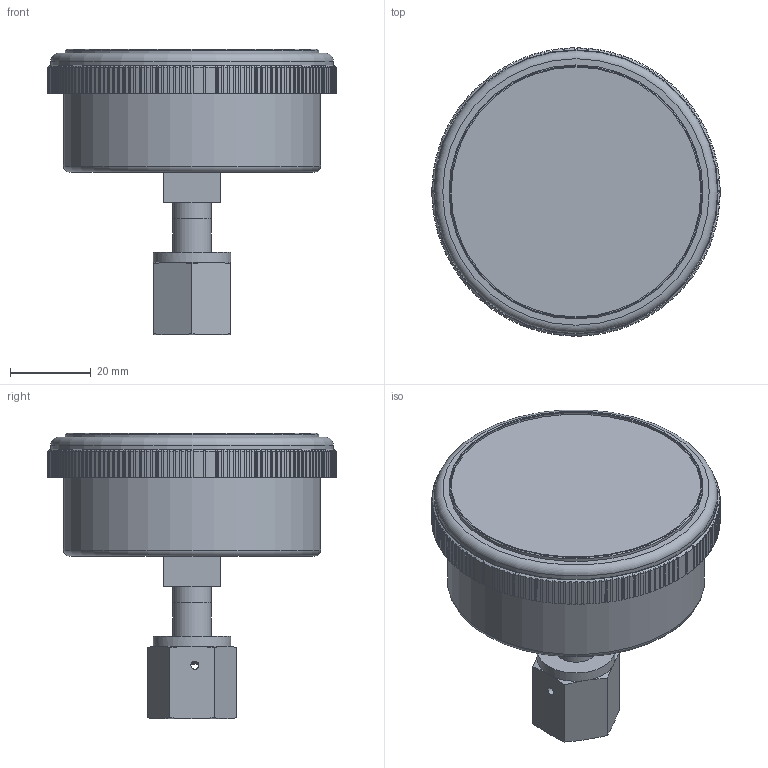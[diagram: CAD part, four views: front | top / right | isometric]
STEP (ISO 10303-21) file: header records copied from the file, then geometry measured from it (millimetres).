
FILE_DESCRIPTION(/* description */ (''),/* implementation_level */ '2;1');
FILE_NAME(/* name */ 'P800_63PI_CENTER BACK MOUNT_SWIVEL(F).stp',/* time_stamp */ '2025-04-01T08:23:47+09:00',/* author */ ('wise-209'),/* organization */ (''),/* preprocessor_version */ 'ST-DEVELOPER v19.2',/* originating_system */ 'Autodesk Inventor 2024',/* authorisation */ '');
FILE_SCHEMA (('AUTOMOTIVE_DESIGN { 1 0 10303 214 3 1 1 }'));
Length unit declared in the file: millimetre
Products named in the file (5): P8XX_50mm_F Type_SF_ASSY.ipt; 50pi F TYPE SHANK; COVER; SHANK; 14NUT
Assembly tree (4 placements, depth 2):
  P8XX_50mm_F Type_SF_ASSY.ipt
    50pi F TYPE SHANK
    COVER
    SHANK
    14NUT
Bounding box: 71.5 x 71.5 x 70.9 mm (x, y, z)
Volume: 110604 mm3; surface area: 19784.6 mm2
Topology: 4 solids, 4 shells, 656 faces, 1900 edges, 1259 vertices
Faces by surface type: plane 465, cylinder 162, cone 26, torus 3
Full cylindrical faces by diameter (mm): 1 x1, 2 x2, 2.5 x1, 4 x1, 4.5 x1, 7.7 x1, 9.53 x2, 9.9 x1, 11.3 x1, 12.7 x1, 12.8 x1, 15 x1, 19.2 x1, 63 x1, 63.8 x1, 70.1 x1
Entity records: 21604 total; most frequent: CARTESIAN_POINT 4276, ORIENTED_EDGE 3796, DIRECTION 3410, EDGE_CURVE 1898, LINE 1358, VECTOR 1358, VERTEX_POINT 1259, AXIS2_PLACEMENT_3D 1026
